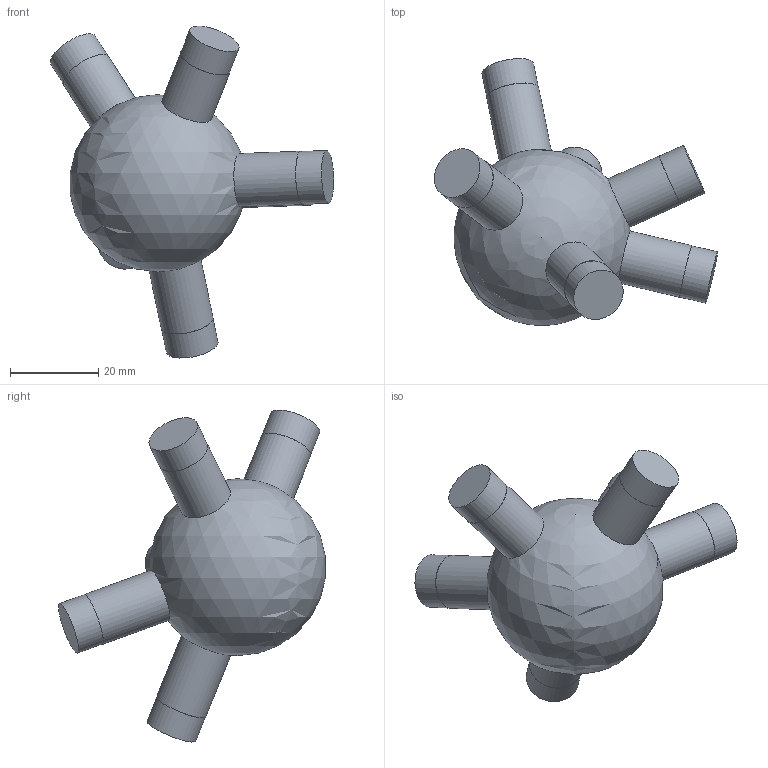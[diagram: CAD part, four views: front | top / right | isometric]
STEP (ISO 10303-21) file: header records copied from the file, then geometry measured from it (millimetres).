
FILE_DESCRIPTION(('Open CASCADE Model'),'2;1');
FILE_NAME('Open CASCADE Shape Model','2026-10-21T12:47:57',('Author'),( 'Open CASCADE'),'Open CASCADE STEP processor 7.9','Open CASCADE 7.9' ,'Unknown');
FILE_SCHEMA(('AUTOMOTIVE_DESIGN { 1 0 10303 214 1 1 1 1 }'));
Length unit declared in the file: millimetre
Products named in the file (1): Open CASCADE STEP translator 7.9 56
Bounding box: 64.07 x 60.35 x 75.05 mm (x, y, z)
Volume: 46780.1 mm3; surface area: 9550 mm2
Topology: 1 solids, 1 shells, 25 faces, 41 edges, 28 vertices
Faces by surface type: cylinder 12, plane 12, sphere 1
Full cylindrical faces by diameter (mm): 11.9 x6, 12 x6
Entity records: 1548 total; most frequent: CARTESIAN_POINT 614, DIRECTION 192, ORIENTED_EDGE 80, PCURVE 80, DEFINITIONAL_REPRESENTATION 80, LINE 66, VECTOR 66, AXIS2_PLACEMENT_3D 54
